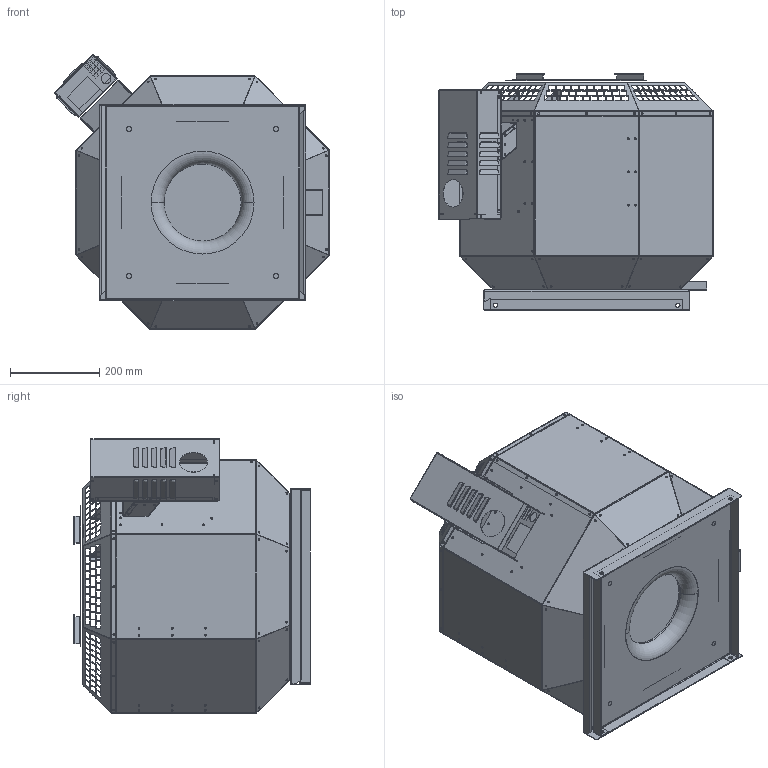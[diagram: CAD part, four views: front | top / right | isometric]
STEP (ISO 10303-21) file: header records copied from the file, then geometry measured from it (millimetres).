
FILE_DESCRIPTION (( 'STEP AP203' ), '1' );
FILE_NAME ('142177-00_DVN280D2F430_step.step', '2018-06-27T07:17:25', ( '' ), ( '' ), 'SwSTEP 2.0', 'SolidWorks 2017', '' );
FILE_SCHEMA (( 'CONFIG_CONTROL_DESIGN' ));
Products named in the file (1): 142177-00_DVN280D2F430_step
Bounding box: 616.65 x 530.51 x 616.65 mm (x, y, z)
Surface area: 3135713.9 mm2 (no closed solid volume)
Topology: 0 solids, 35 shells, 2243 faces, 9068 edges, 6374 vertices
Faces by surface type: plane 1726, cylinder 423, bspline 90, torus 4
Entity records: 112669 total; most frequent: CARTESIAN_POINT 36533, ORIENTED_EDGE 14435, DIRECTION 14324, EDGE_CURVE 9068, VECTOR 7186, LINE 7186, VERTEX_POINT 6374, EDGE_LOOP 3763
